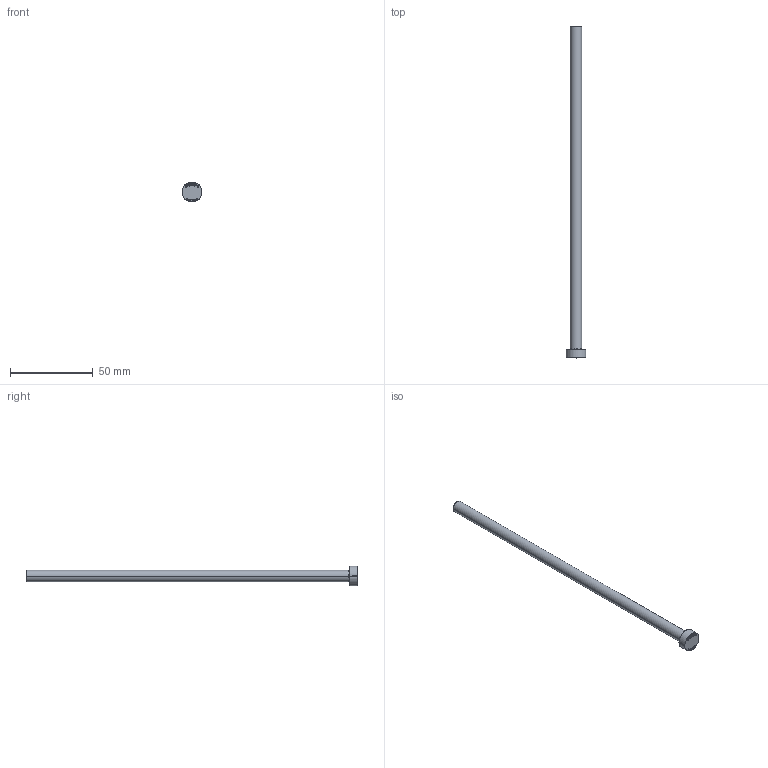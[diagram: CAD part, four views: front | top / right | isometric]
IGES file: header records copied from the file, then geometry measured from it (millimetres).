
Start section: SolidWorks IGES file using analytic representation for surfaces
Global section: file name: C:\Users\User\Downloads\Matripeça 31-08 tar\PB - PINO EXTRATOR TIPO _B_ (CATÁLOGO)\PB07,0\PB07,0200.IGS; native system: SolidWorks 2024; preprocessor: SolidWorks 2024; author: User; date: 260901.144720; units: millimetre
Bounding box: 12 x 200 x 12 mm (x, y, z)
Surface area: 4707.9 mm2 (no closed solid volume)
Topology: 0 solids, 0 shells, 394 faces, 3709 edges, 3709 vertices
Faces by surface type: bspline 380, revolution 14
